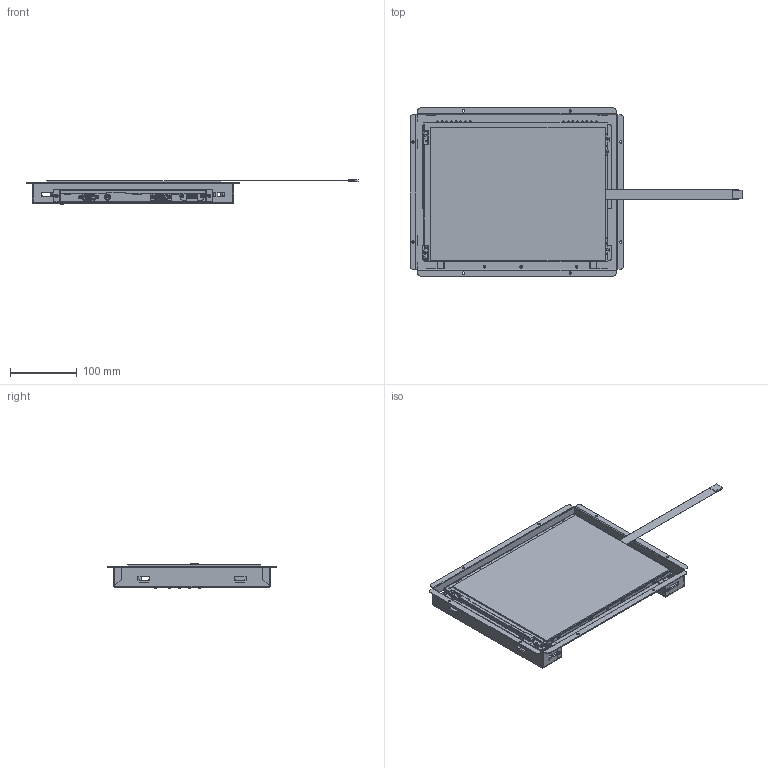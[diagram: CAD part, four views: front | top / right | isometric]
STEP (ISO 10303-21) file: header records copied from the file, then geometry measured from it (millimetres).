
FILE_DESCRIPTION (( 'STEP AP203' ), '1' );
FILE_NAME ('IDS-3112ER-45SVA1E.STEP', '2014-04-25T06:19:29', ( 'ITD.MIS' ), ( '' ), 'SwSTEP 2.0', 'SolidWorks 2013', '' );
FILE_SCHEMA (( 'CONFIG_CONTROL_DESIGN' ));
Products named in the file (1): IDS-3112ER-45SVA1E
Bounding box: 497.6 x 252 x 36.33 mm (x, y, z)
Surface area: 1752730.4 mm2 (no closed solid volume)
Topology: 0 solids, 111 shells, 7411 faces, 19855 edges, 12746 vertices
Faces by surface type: plane 4519, cylinder 2293, bspline 298, cone 234, torus 67
Entity records: 244661 total; most frequent: CARTESIAN_POINT 62080, ORIENTED_EDGE 39356, DIRECTION 35314, EDGE_CURVE 19718, VECTOR 13926, LINE 13926, VERTEX_POINT 12754, AXIS2_PLACEMENT_3D 10694
